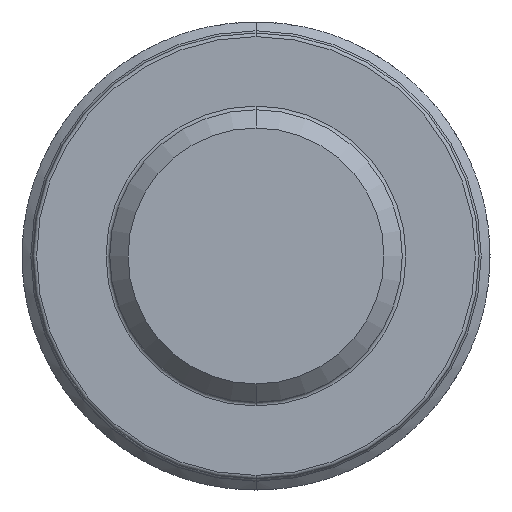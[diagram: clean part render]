
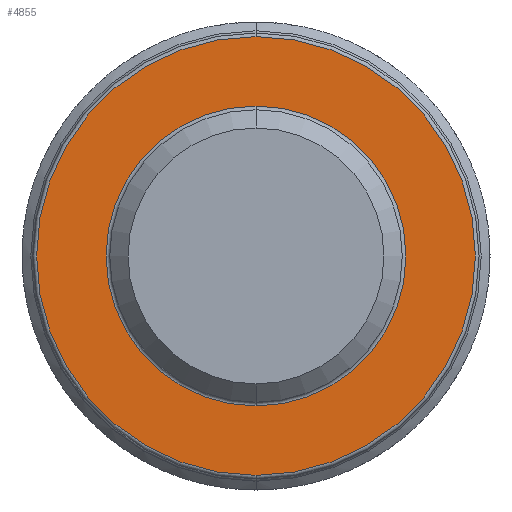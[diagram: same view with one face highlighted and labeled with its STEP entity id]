
A CAD part, front view. The second image highlights one B-rep face of the part: STEP entity #4855.
In plain terms, the highlighted planar face has unit normal (0, -1, 0).
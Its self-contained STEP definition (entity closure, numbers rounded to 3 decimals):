
#69 = DIRECTION ( 'NONE',  ( 0., 0., -1. ) ) ;
#113 = EDGE_CURVE ( 'NONE', #5421, #3150, #7335, .T. ) ;
#276 = EDGE_CURVE ( 'NONE', #3150, #5421, #6269, .T. ) ;
#333 = AXIS2_PLACEMENT_3D ( 'NONE', #4859, #6124, #4225 ) ;
#342 = AXIS2_PLACEMENT_3D ( 'NONE', #3045, #8192, #6171 ) ;
#414 = CARTESIAN_POINT ( 'NONE',  ( 0., -8., 4.1 ) ) ;
#475 = FACE_BOUND ( 'NONE', #3686, .T. ) ;
#526 = DIRECTION ( 'NONE',  ( 0., 0., -1. ) ) ;
#830 = ORIENTED_EDGE ( 'NONE', *, *, #6411, .T. ) ;
#1041 = AXIS2_PLACEMENT_3D ( 'NONE', #5574, #6133, #4948 ) ;
#1308 = DIRECTION ( 'NONE',  ( 0., -1., 0. ) ) ;
#1724 = CARTESIAN_POINT ( 'NONE',  ( 0., -8., 0. ) ) ;
#2246 = CARTESIAN_POINT ( 'NONE',  ( 0., -8., 6. ) ) ;
#2396 = CIRCLE ( 'NONE', #7103, 6. ) ;
#2529 = CARTESIAN_POINT ( 'NONE',  ( 0., -8., 0. ) ) ;
#2656 = EDGE_CURVE ( 'NONE', #7737, #2768, #2396, .T. ) ;
#2768 = VERTEX_POINT ( 'NONE', #2246 ) ;
#2873 = EDGE_LOOP ( 'NONE', ( #4854, #830 ) ) ;
#3014 = FACE_OUTER_BOUND ( 'NONE', #2873, .T. ) ;
#3045 = CARTESIAN_POINT ( 'NONE',  ( 0., -8., 0. ) ) ;
#3150 = VERTEX_POINT ( 'NONE', #3659 ) ;
#3452 = ORIENTED_EDGE ( 'NONE', *, *, #113, .T. ) ;
#3564 = PLANE ( 'NONE',  #1041 ) ;
#3659 = CARTESIAN_POINT ( 'NONE',  ( 0., -8., -4.1 ) ) ;
#3686 = EDGE_LOOP ( 'NONE', ( #5623, #3452 ) ) ;
#4225 = DIRECTION ( 'NONE',  ( 0., 0., -1. ) ) ;
#4854 = ORIENTED_EDGE ( 'NONE', *, *, #2656, .T. ) ;
#4855 = ADVANCED_FACE ( 'NONE', ( #475, #3014 ), #3564, .T. ) ;
#4859 = CARTESIAN_POINT ( 'NONE',  ( 0., -8., 0. ) ) ;
#4948 = DIRECTION ( 'NONE',  ( 0., 0., -1. ) ) ;
#5319 = DIRECTION ( 'NONE',  ( 0., -1., 0. ) ) ;
#5421 = VERTEX_POINT ( 'NONE', #414 ) ;
#5574 = CARTESIAN_POINT ( 'NONE',  ( 4., -8., 0. ) ) ;
#5623 = ORIENTED_EDGE ( 'NONE', *, *, #276, .T. ) ;
#6124 = DIRECTION ( 'NONE',  ( 0., 1., 0. ) ) ;
#6133 = DIRECTION ( 'NONE',  ( 0., -1., 0. ) ) ;
#6171 = DIRECTION ( 'NONE',  ( 0., 0., -1. ) ) ;
#6226 = AXIS2_PLACEMENT_3D ( 'NONE', #2529, #1308, #69 ) ;
#6269 = CIRCLE ( 'NONE', #342, 4.1 ) ;
#6411 = EDGE_CURVE ( 'NONE', #2768, #7737, #7301, .T. ) ;
#7103 = AXIS2_PLACEMENT_3D ( 'NONE', #1724, #5319, #526 ) ;
#7301 = CIRCLE ( 'NONE', #6226, 6. ) ;
#7335 = CIRCLE ( 'NONE', #333, 4.1 ) ;
#7684 = CARTESIAN_POINT ( 'NONE',  ( 0., -8., -6. ) ) ;
#7737 = VERTEX_POINT ( 'NONE', #7684 ) ;
#8192 = DIRECTION ( 'NONE',  ( 0., 1., 0. ) ) ;
